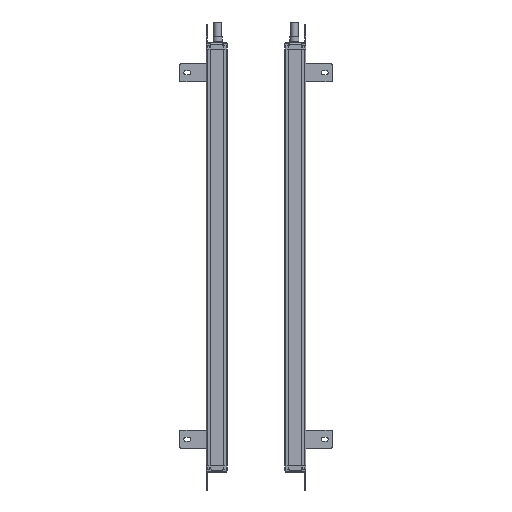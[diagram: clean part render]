
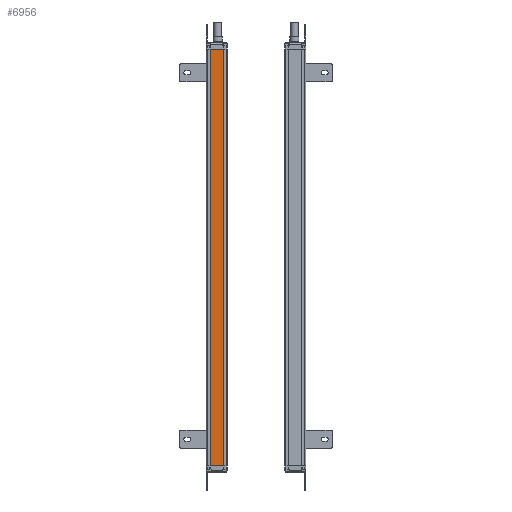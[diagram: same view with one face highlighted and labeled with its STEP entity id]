
A CAD part, left-side view. The second image highlights one B-rep face of the part: STEP entity #6956.
In plain terms, the highlighted planar face has unit normal (-1, 0, 0).
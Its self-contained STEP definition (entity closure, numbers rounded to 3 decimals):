
#953=FACE_OUTER_BOUND('',#9034,.T.);
#2188=LINE('',#33710,#4326);
#2290=LINE('',#34050,#4428);
#2291=LINE('',#34052,#4429);
#2292=LINE('',#34054,#4430);
#4326=VECTOR('',#26897,1.);
#4428=VECTOR('',#27185,1.);
#4429=VECTOR('',#27188,1.);
#4430=VECTOR('',#27189,1.);
#6178=PLANE('',#23723);
#6956=ADVANCED_FACE('',(#953),#6178,.T.);
#9034=EDGE_LOOP('',(#11681,#11682,#11683,#11684));
#11681=ORIENTED_EDGE('',*,*,#19828,.F.);
#11682=ORIENTED_EDGE('',*,*,#19829,.T.);
#11683=ORIENTED_EDGE('',*,*,#19830,.T.);
#11684=ORIENTED_EDGE('',*,*,#19658,.F.);
#17203=VERTEX_POINT('',#33709);
#17204=VERTEX_POINT('',#33711);
#17348=VERTEX_POINT('',#34049);
#17349=VERTEX_POINT('',#34053);
#19658=EDGE_CURVE('',#17203,#17204,#2188,.T.);
#19828=EDGE_CURVE('',#17348,#17203,#2290,.T.);
#19829=EDGE_CURVE('',#17348,#17349,#2291,.T.);
#19830=EDGE_CURVE('',#17349,#17204,#2292,.T.);
#23723=AXIS2_PLACEMENT_3D('',#34055,#27190,#27191);
#26897=DIRECTION('',(0.,-1.,0.));
#27185=DIRECTION('',(0.,0.,1.));
#27188=DIRECTION('',(0.,-1.,0.));
#27189=DIRECTION('',(0.,0.,1.));
#27190=DIRECTION('',(-1.,0.,0.));
#27191=DIRECTION('',(0.,1.,0.));
#33709=CARTESIAN_POINT('',(233.846,104.141,31.645));
#33710=CARTESIAN_POINT('',(233.846,81.141,31.645));
#33711=CARTESIAN_POINT('',(233.846,81.141,31.645));
#34049=CARTESIAN_POINT('',(233.846,104.141,-673.355));
#34050=CARTESIAN_POINT('',(233.846,104.141,-155.355));
#34052=CARTESIAN_POINT('',(233.846,81.141,-673.355));
#34053=CARTESIAN_POINT('',(233.846,81.141,-673.355));
#34054=CARTESIAN_POINT('',(233.846,81.141,-155.355));
#34055=CARTESIAN_POINT('',(233.846,81.141,-50.355));
